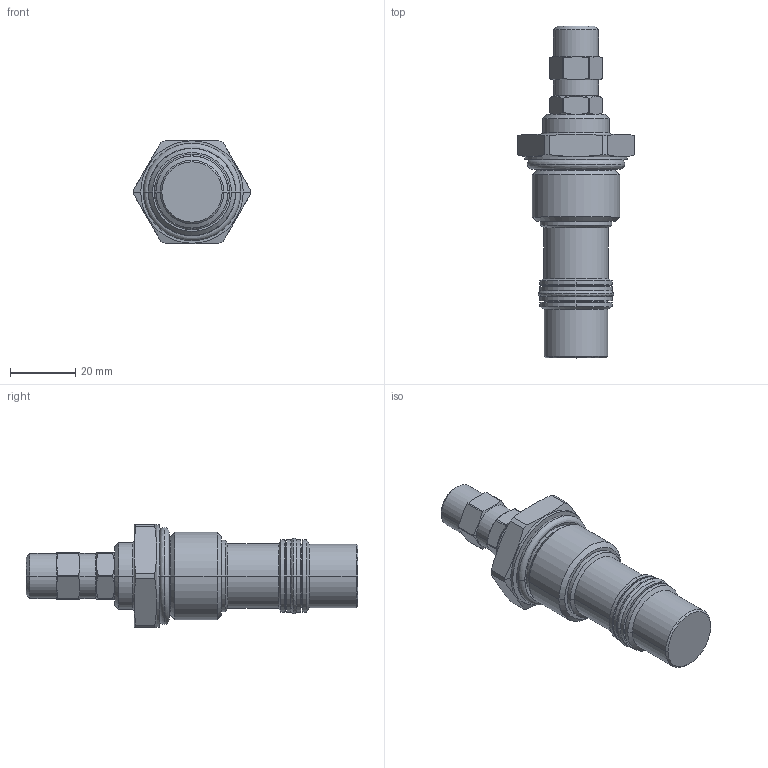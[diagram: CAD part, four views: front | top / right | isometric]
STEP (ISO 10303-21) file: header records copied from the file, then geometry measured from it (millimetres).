
FILE_DESCRIPTION((''),'2;1');
FILE_NAME('FR12-23C','2009-02-03T',('jcs'),(''),'PRO/ENGINEER BY PARAMETRIC TECHNOLOGY CORPORATION, 2008010','PRO/ENGINEER BY PARAMETRIC TECHNOLOGY CORPORATION, 2008010','');
FILE_SCHEMA(('CONFIG_CONTROL_DESIGN'));
Length unit declared in the file: inch
Products named in the file (1): FR12-23C
Bounding box: 35.81 x 101.96 x 31.75 mm (x, y, z)
Volume: 37218.7 mm3; surface area: 10314.8 mm2
Topology: 3 solids, 4 shells, 151 faces, 350 edges, 210 vertices
Faces by surface type: cylinder 50, cone 38, plane 29, torus 18, revolution 16
Entity records: 4984 total; most frequent: CARTESIAN_POINT 1483, DIRECTION 760, ORIENTED_EDGE 700, EDGE_CURVE 350, AXIS2_PLACEMENT_3D 321, VERTEX_POINT 210, CIRCLE 186, EDGE_LOOP 160
